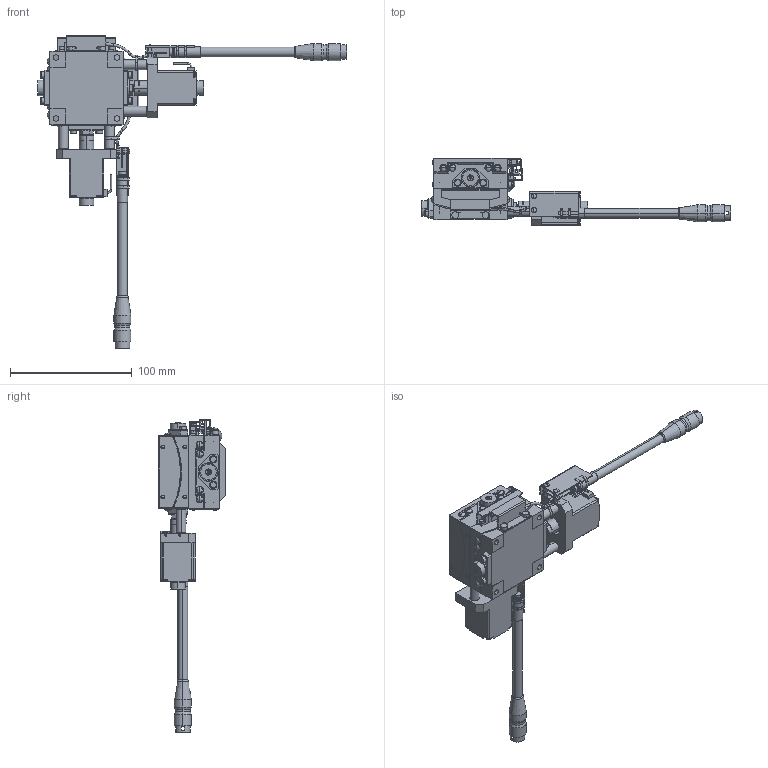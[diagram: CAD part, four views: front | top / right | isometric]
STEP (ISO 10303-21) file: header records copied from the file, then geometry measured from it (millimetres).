
FILE_DESCRIPTION (( 'STEP AP214' ), '1' );
FILE_NAME ('KAB06050T-RT.STEP', '2024-04-17T02:08:02', ( '' ), ( '' ), 'SwSTEP 2.0', 'SolidWorks 2017', '' );
FILE_SCHEMA (( 'AUTOMOTIVE_DESIGN' ));
Length unit declared in the file: millimetre
Products named in the file (9): KGB-TOP-06050-R; KGB-TOP-06075-R; KGB-BASE-06050-R; KGB-BASE-06075-R; KGB-60-T-R; 60-T-12-R; KAB06050T-RT; KGB06050T-RC_T_T; KGB06075T-RC_T_T
Assembly tree (10 placements, depth 3):
  KAB06050T-RT
    KGB06075T-RC_T_T
      KGB-BASE-06075-R
      KGB-TOP-06075-R
      KGB-60-T-R
      60-T-12-R
    KGB06050T-RC_T_T
      KGB-BASE-06050-R
      KGB-TOP-06050-R
      KGB-60-T-R
      60-T-12-R
Bounding box: 253.9 x 55 x 256.5 mm (x, y, z)
Volume: 286654.3 mm3; surface area: 107270.6 mm2
Topology: 8 solids, 70 shells, 2107 faces, 5058 edges, 3247 vertices
Faces by surface type: plane 901, cylinder 802, cone 200, torus 100, sphere 64, bspline 40
Entity records: 53368 total; most frequent: CARTESIAN_POINT 10425, DIRECTION 9472, ORIENTED_EDGE 8246, EDGE_CURVE 4123, AXIS2_PLACEMENT_3D 3687, VERTEX_POINT 2678, LINE 2098, VECTOR 2098
